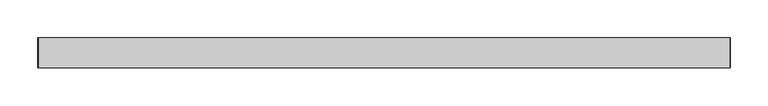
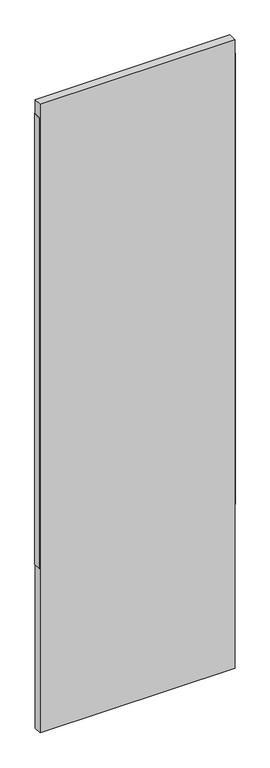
"""IFC4 building model written with IfcOpenShell, lengths in millimetres: plate geometry, Vitré."""

from ifc_helpers import new_model, si_unit, frame, origin, origin_with_axes, place, context, project, spatial, polyline, outline, extrude, source, transform, mapped, element, save


def plate_2165aaa3(model_context):
    return source(origin(), model_context, "Body", "SweptSolid", [
        extrude(outline(polyline([(459.3455151, -20.0), (-458.2794849, -20.0), (-458.2794849, 20.0), (459.3455151, 20.0), (459.3455151, -20.0)])), origin_with_axes(), (0.0, 0.0, 1.0), 3123.8125),
        extrude(outline(polyline([(460.0, -20.0), (-460.0, -20.0), (-460.0, 20.0), (460.0, 20.0), (460.0, -20.0)])), frame((0.0, 0.0, 815.8125), z_axis=(0.0, 0.0, 1.0), x_axis=(1.0, 0.0, 0.0)), (0.0, 0.0, 1.0), 2240.0),
    ])


if __name__ == "__main__":
    model = new_model("IFC4")
    model_context = context("Model", 3, world=origin())
    ifc_project = project(units=[si_unit("LENGTHUNIT", "METRE", prefix="MILLI")], contexts=[model_context])
    site = spatial("IfcSite", under=ifc_project)
    building = spatial("IfcBuilding", under=site)
    placement = place(None, origin())
    plate_shape = plate_2165aaa3(model_context)
    element("IfcPlate", 1, ObjectType="Vitré", at=placement, inside=building, context=model_context, shape_type="MappedRepresentation", body=[
        mapped(plate_shape, transform((0.0, 0.0, 0.0), x_axis=(1.0, 0.0, 0.0), y_axis=(0.0, 1.0, 0.0), z_axis=(0.0, 0.0, 1.0))),
    ])
    save(model, "model.ifc")
